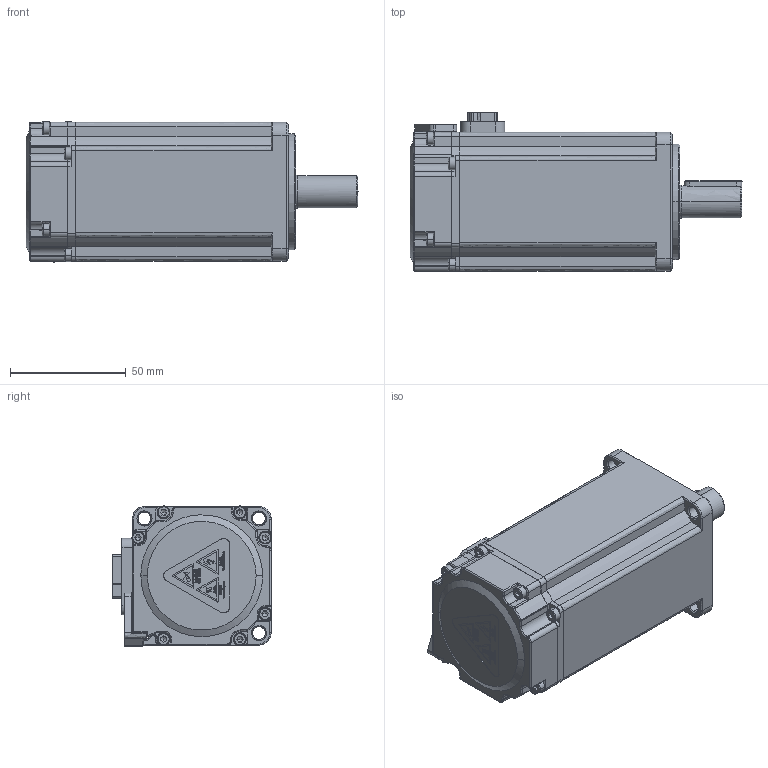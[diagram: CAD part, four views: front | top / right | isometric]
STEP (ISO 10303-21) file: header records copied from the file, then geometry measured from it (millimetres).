
FILE_DESCRIPTION (( 'STEP AP203' ), '1' );
FILE_NAME ('600W祥湍价陬.STEP', '2024-05-22T06:14:24', ( 'Windows 蚚誧' ), ( '' ), 'SwSTEP 2.0', 'SolidWorks 2020', '' );
FILE_SCHEMA (( 'CONFIG_CONTROL_DESIGN' ));
Length unit declared in the file: millimetre
Products named in the file (13): 600W祥湍价陬; 1040150.IGS; 编码器罩端部三角标签.IGS; 1030018 深沟球轴承6200-2Z.IGS; M3｡ﾁ10.IGS; 600W祥湍价陬.IGS; HN01.06.T001A1 粣 1010372.IGS; ﾓﾍｷ筌ｨﾗﾘﾉｫ｣ｩ｣ｨ14.2｡ﾁ22x4｣ｩ.IGS; 1030003 深沟球轴承6202-2Z.IGS; 1020134_V1.1.IGS; 1060168 三竹接插件底座组件（底座不带刹车 MC6P 长度13mm21mm）,.IGS; 1030249 平键（5×5×25 A型 GB-T 1096）.IGS; 晤鎢ん裔.IGS
Assembly tree (19 placements, depth 3):
  600W祥湍价陬
    600W祥湍价陬.IGS
      1040150.IGS
      HN01.06.T001A1 粣 1010372.IGS
      1030003 深沟球轴承6202-2Z.IGS
      1030018 深沟球轴承6200-2Z.IGS
      1020134_V1.1.IGS
      1030249 平键（5×5×25 A型 GB-T 1096）.IGS
      ﾓﾍｷ筌ｨﾗﾘﾉｫ｣ｩ｣ｨ14.2｡ﾁ22x4｣ｩ.IGS
      晤鎢ん裔.IGS
      1060168 三竹接插件底座组件（底座不带刹车 MC6P 长度13mm21mm）,.IGS
      M3｡ﾁ10.IGS  x8
      编码器罩端部三角标签.IGS
Bounding box: 143.5 x 68.78 x 60.57 mm (x, y, z)
Volume: 137322.1 mm3; surface area: 98338.6 mm2
Topology: 17 solids, 18 shells, 2598 faces, 8972 edges, 6495 vertices
Faces by surface type: bspline 2598
Entity records: 134284 total; most frequent: CARTESIAN_POINT 84233, ORIENTED_EDGE 16996, EDGE_CURVE 8502, B_SPLINE_CURVE_WITH_KNOTS 7270, VERTEX_POINT 6264, EDGE_LOOP 2764, ADVANCED_FACE 2423, FACE_OUTER_BOUND 2423
